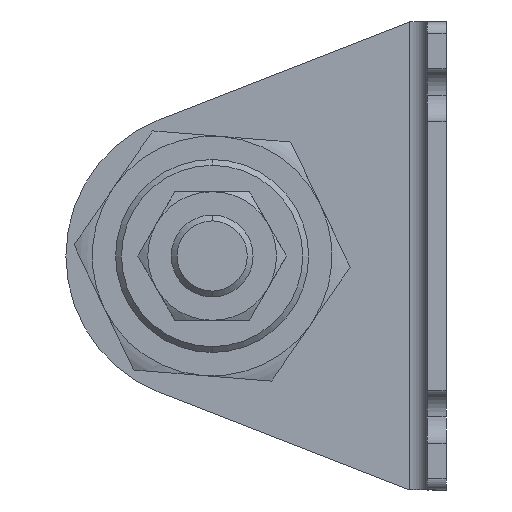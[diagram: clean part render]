
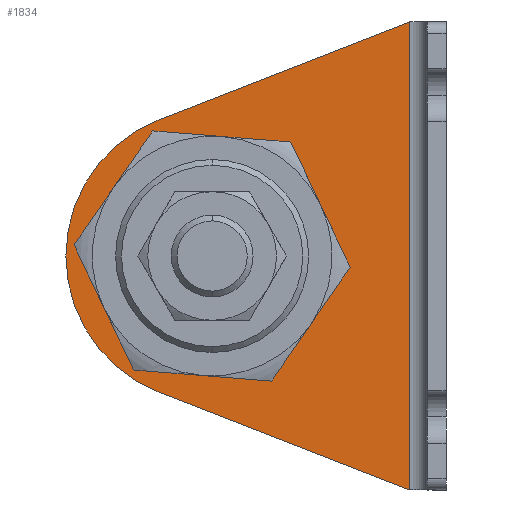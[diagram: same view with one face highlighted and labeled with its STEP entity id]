
A CAD part, left-side view. The second image highlights one B-rep face of the part: STEP entity #1834.
In plain terms, the highlighted planar face has unit normal (-1, 0, 0) as drawn and (1, 0, 0) by its records, which use the part's own axes.
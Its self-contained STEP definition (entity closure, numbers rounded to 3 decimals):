
#1 = EDGE_LOOP ( 'NONE', ( #320, #141, #3402, #3933, #3212 ) ) ;
#42 = VERTEX_POINT ( 'NONE', #576 ) ;
#46 = LINE ( 'NONE', #3360, #2289 ) ;
#54 = LINE ( 'NONE', #1312, #3831 ) ;
#63 = DIRECTION ( 'NONE',  ( 1., 0., 0. ) ) ;
#141 = ORIENTED_EDGE ( 'NONE', *, *, #1778, .T. ) ;
#180 = EDGE_CURVE ( 'NONE', #4286, #3864, #54, .T. ) ;
#307 = CIRCLE ( 'NONE', #2253, 25. ) ;
#320 = ORIENTED_EDGE ( 'NONE', *, *, #180, .T. ) ;
#323 = CARTESIAN_POINT ( 'NONE',  ( 3.2, 40., -40. ) ) ;
#348 = CARTESIAN_POINT ( 'NONE',  ( 3.2, 40., -40. ) ) ;
#464 = EDGE_CURVE ( 'NONE', #2920, #42, #485, .T. ) ;
#485 = LINE ( 'NONE', #3739, #2995 ) ;
#576 = CARTESIAN_POINT ( 'NONE',  ( 3.2, 49.076, -16.706 ) ) ;
#683 = CIRCLE ( 'NONE', #3645, 16.5 ) ;
#702 = DIRECTION ( 'NONE',  ( 1., 0., 0. ) ) ;
#799 = CARTESIAN_POINT ( 'NONE',  ( 3.2, 56.5, -40. ) ) ;
#851 = AXIS2_PLACEMENT_3D ( 'NONE', #323, #63, #3969 ) ;
#1000 = FACE_OUTER_BOUND ( 'NONE', #1, .T. ) ;
#1046 = DIRECTION ( 'NONE',  ( 1., 0., 0. ) ) ;
#1079 = EDGE_CURVE ( 'NONE', #3304, #42, #3207, .T. ) ;
#1279 = DIRECTION ( 'NONE',  ( 0., 0.932, 0.363 ) ) ;
#1305 = DIRECTION ( 'NONE',  ( 0., 1., 0. ) ) ;
#1312 = CARTESIAN_POINT ( 'NONE',  ( 3.2, 3.595, -81.015 ) ) ;
#1429 = CARTESIAN_POINT ( 'NONE',  ( 3.2, 65., -40. ) ) ;
#1696 = DIRECTION ( 'NONE',  ( 0., 1., 0. ) ) ;
#1722 = EDGE_CURVE ( 'NONE', #3181, #1753, #4285, .T. ) ;
#1753 = VERTEX_POINT ( 'NONE', #3377 ) ;
#1758 = ORIENTED_EDGE ( 'NONE', *, *, #1722, .F. ) ;
#1778 = EDGE_CURVE ( 'NONE', #3864, #3304, #307, .T. ) ;
#1831 = EDGE_LOOP ( 'NONE', ( #1758, #3089 ) ) ;
#1834 = ADVANCED_FACE ( 'NONE', ( #3609, #1000 ), #2629, .T. ) ;
#1951 = EDGE_CURVE ( 'NONE', #2920, #4286, #46, .T. ) ;
#1953 = DIRECTION ( 'NONE',  ( 1., 0., 0. ) ) ;
#2180 = AXIS2_PLACEMENT_3D ( 'NONE', #3932, #4246, #1305 ) ;
#2253 = AXIS2_PLACEMENT_3D ( 'NONE', #2999, #1046, #2748 ) ;
#2289 = VECTOR ( 'NONE', #3448, 1000. ) ;
#2318 = CARTESIAN_POINT ( 'NONE',  ( 3.2, 49.076, -63.294 ) ) ;
#2387 = AXIS2_PLACEMENT_3D ( 'NONE', #348, #702, #1696 ) ;
#2436 = DIRECTION ( 'NONE',  ( 0., 0.932, -0.363 ) ) ;
#2606 = DIRECTION ( 'NONE',  ( 0., 1., 0. ) ) ;
#2629 = PLANE ( 'NONE',  #2180 ) ;
#2748 = DIRECTION ( 'NONE',  ( 0., 1., 0. ) ) ;
#2920 = VERTEX_POINT ( 'NONE', #4150 ) ;
#2995 = VECTOR ( 'NONE', #2436, 1000. ) ;
#2999 = CARTESIAN_POINT ( 'NONE',  ( 3.2, 40., -40. ) ) ;
#3089 = ORIENTED_EDGE ( 'NONE', *, *, #3385, .F. ) ;
#3181 = VERTEX_POINT ( 'NONE', #799 ) ;
#3207 = CIRCLE ( 'NONE', #851, 25. ) ;
#3212 = ORIENTED_EDGE ( 'NONE', *, *, #1951, .T. ) ;
#3304 = VERTEX_POINT ( 'NONE', #1429 ) ;
#3360 = CARTESIAN_POINT ( 'NONE',  ( 3.2, 6.2, -80. ) ) ;
#3377 = CARTESIAN_POINT ( 'NONE',  ( 3.2, 23.5, -40. ) ) ;
#3385 = EDGE_CURVE ( 'NONE', #1753, #3181, #683, .T. ) ;
#3402 = ORIENTED_EDGE ( 'NONE', *, *, #1079, .T. ) ;
#3448 = DIRECTION ( 'NONE',  ( 0., 0., -1. ) ) ;
#3468 = CARTESIAN_POINT ( 'NONE',  ( 3.2, 6.2, -80. ) ) ;
#3526 = CARTESIAN_POINT ( 'NONE',  ( 3.2, 40., -40. ) ) ;
#3609 = FACE_BOUND ( 'NONE', #1831, .T. ) ;
#3645 = AXIS2_PLACEMENT_3D ( 'NONE', #3526, #1953, #2606 ) ;
#3739 = CARTESIAN_POINT ( 'NONE',  ( 3.2, 30.657, -9.529 ) ) ;
#3831 = VECTOR ( 'NONE', #1279, 1000. ) ;
#3864 = VERTEX_POINT ( 'NONE', #2318 ) ;
#3932 = CARTESIAN_POINT ( 'NONE',  ( 3.2, 3.2, -80. ) ) ;
#3933 = ORIENTED_EDGE ( 'NONE', *, *, #464, .F. ) ;
#3969 = DIRECTION ( 'NONE',  ( 0., 1., 0. ) ) ;
#4150 = CARTESIAN_POINT ( 'NONE',  ( 3.2, 6.2, 0. ) ) ;
#4246 = DIRECTION ( 'NONE',  ( 1., 0., 0. ) ) ;
#4285 = CIRCLE ( 'NONE', #2387, 16.5 ) ;
#4286 = VERTEX_POINT ( 'NONE', #3468 ) ;
